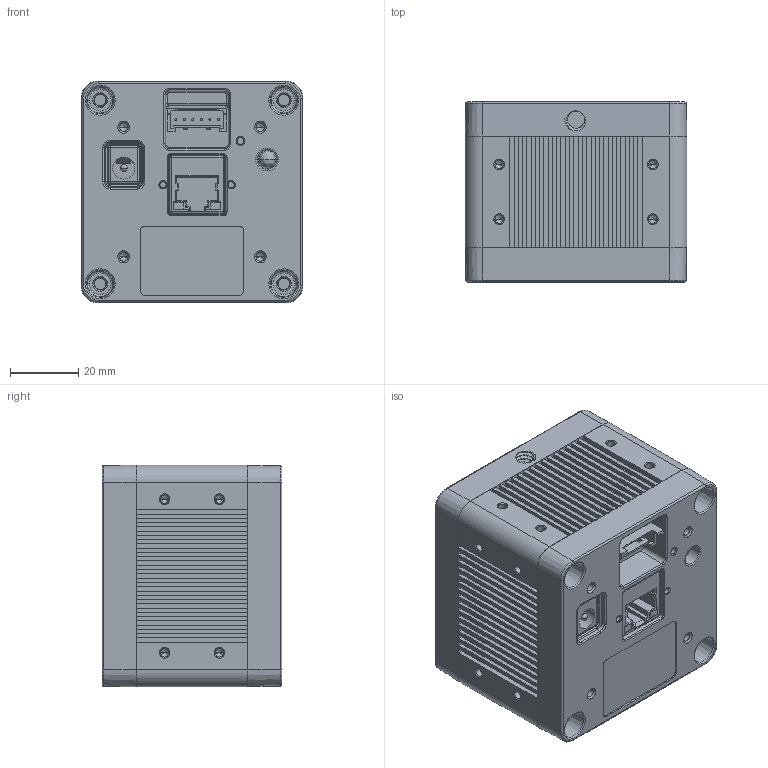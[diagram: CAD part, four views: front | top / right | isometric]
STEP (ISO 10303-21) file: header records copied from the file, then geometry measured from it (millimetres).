
FILE_DESCRIPTION((''),'2;1');
FILE_NAME('DCAM550_43D_ASM','2022-06-17T11:24:25',('Lincoln'),(''),'CREO PARAMETRIC BY PTC INC, 2018260','CREO PARAMETRIC BY PTC INC, 2018260','');
FILE_SCHEMA(('CONFIG_CONTROL_DESIGN','GEOMETRIC_VALIDATION_PROPERTIES_MIM'));
Length unit declared in the file: millimetre
Products named in the file (4): 43D_TOP_COVER_550; 43D_550P_MIDDLE_COVER; 43D_550P; DCAM550_43D_ASM
Assembly tree (3 placements, depth 2):
  DCAM550_43D_ASM
    43D_TOP_COVER_550
    43D_550P_MIDDLE_COVER
    43D_550P
Bounding box: 65 x 52.7 x 65 mm (x, y, z)
Volume: 195501.9 mm3; surface area: 57918.9 mm2
Topology: 5 solids, 6 shells, 1161 faces, 3124 edges, 1988 vertices
Faces by surface type: plane 663, cone 224, cylinder 188, torus 48, bspline 28, sphere 10
Entity records: 46989 total; most frequent: CARTESIAN_POINT 11396, ORIENTED_EDGE 6124, DIRECTION 5902, EDGE_CURVE 3062, VECTOR 2200, LINE 2200, PRESENTATION_STYLE_ASSIGNMENT 2098, STYLED_ITEM 2098
